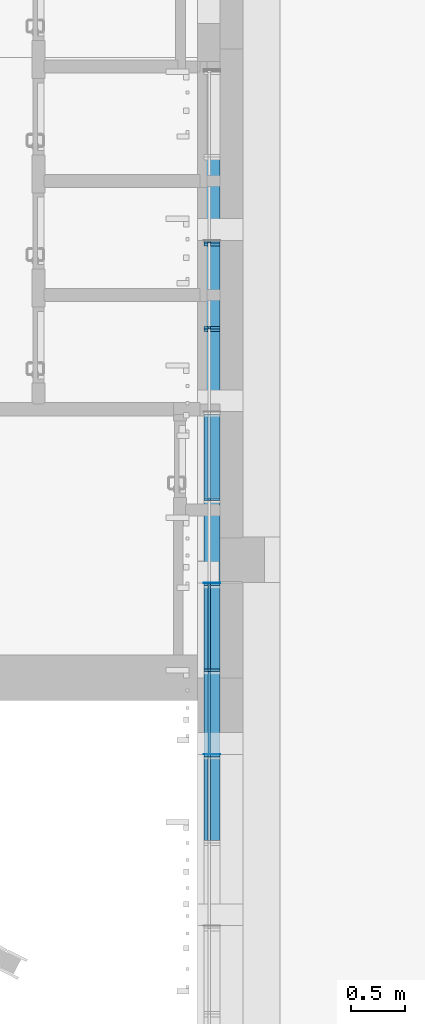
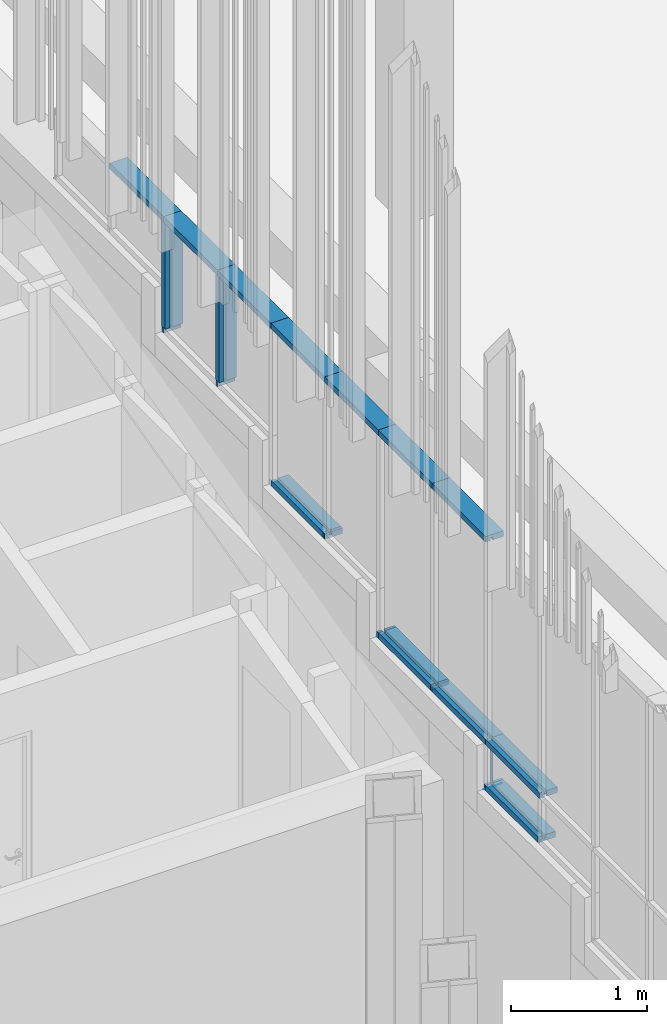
# One storey, part 61 of 390: 26 discrete accessories, 1 element without a shape of its own.
"""IFC2X3 building model written with IfcOpenShell, lengths in millimetres."""

import ifcopenshell
import ifcopenshell.guid

model = None  # the IFC model being written
_history = None  # IfcOwnerHistory: only IFC2X3 demands one
_inside = {}  # id of a spatial element -> (the spatial element, [elements in it])
_under = {}  # id of a project, library or spatial element -> (it, [spatial elements below it])
_declared = {}  # id of a project -> (the project, [libraries it declares])
_typed = {}  # id of a type object -> (the type object, [elements of that type])
_made_of = {}  # id of a material, layer set ... -> (it, [elements and type objects made of it])


def new_model(schema):
    """Start an empty IFC model of exactly this schema.

    Asked for "IFC4X3", IfcOpenShell would pick the latest addendum, in which some entities
    have other attributes; the version numbers below select the first issue.
    IFC2X3 requires an IfcOwnerHistory on every rooted entity: one is made here for all.
    """
    global model, _history
    if schema == "IFC4X3":
        model = ifcopenshell.file(schema_version=(4, 3, 0, 0))
    else:
        model = ifcopenshell.file(schema=schema)
    _inside.clear()
    _under.clear()
    _declared.clear()
    _typed.clear()
    _made_of.clear()
    _history = None
    if model.schema == "IFC2X3":
        org = make("IfcOrganization", Name="unknown")
        user = make(
            "IfcPersonAndOrganization",
            ThePerson=make("IfcPerson", FamilyName="unknown"),
            TheOrganization=org,
        )
        app = make(
            "IfcApplication",
            ApplicationDeveloper=org,
            Version="unknown",
            ApplicationFullName="unknown",
            ApplicationIdentifier="unknown",
        )
        _history = make(
            "IfcOwnerHistory",
            OwningUser=user,
            OwningApplication=app,
            ChangeAction="ADDED",
            CreationDate=0,
        )
    return model


def make(cls, **values):
    """One entity of the class cls with the attributes given. An attribute that is None is left unset."""
    return model.create_entity(
        cls, **{name: value for name, value in values.items() if value is not None}
    )


def entity(cls, *values):
    """Any entity or typed value of the class cls, its attributes in the order of the schema. None: left unset."""
    e = model.create_entity(cls)
    for i, value in enumerate(values):
        if value is not None:
            e[i] = value
    return e


def rooted(cls, **values):
    """An entity with a GlobalId (a new one), such as an element, a storey or a relation."""
    return make(cls, GlobalId=ifcopenshell.guid.new(), OwnerHistory=_history, **values)


def si_unit(unit_type, name, prefix=None):
    """IfcSIUnit, for example si_unit("LENGTHUNIT", "METRE", prefix="MILLI")."""
    return make("IfcSIUnit", UnitType=unit_type, Prefix=prefix, Name=name)


def converted_unit(unit_type, name, factor, base, dimensions=None, offset=None):
    """IfcConversionBasedUnit, such as the inch: factor (a typed value) times the base unit."""
    return make(
        "IfcConversionBasedUnit"
        if offset is None
        else "IfcConversionBasedUnitWithOffset",
        ConversionOffset=offset,
        Dimensions=None
        if dimensions is None
        else entity("IfcDimensionalExponents", *dimensions),
        UnitType=unit_type,
        Name=name,
        ConversionFactor=make(
            "IfcMeasureWithUnit", ValueComponent=factor, UnitComponent=base
        ),
    )


def derived_unit(unit_type, elements):
    """IfcDerivedUnit: a product of units, each with its exponent."""
    return make(
        "IfcDerivedUnit",
        Elements=[
            make("IfcDerivedUnitElement", Unit=unit, Exponent=power)
            for unit, power in elements
        ],
        UnitType=unit_type,
    )


def money_unit(currency):
    """IfcMonetaryUnit."""
    return make("IfcMonetaryUnit", Currency=currency)


def assignment(units):
    """IfcUnitAssignment: the units of a project."""
    return None if units is None else make("IfcUnitAssignment", Units=units)


def point(xyz):
    """IfcCartesianPoint."""
    return None if xyz is None else make("IfcCartesianPoint", Coordinates=xyz)


def direction(xyz):
    """IfcDirection."""
    return None if xyz is None else make("IfcDirection", DirectionRatios=xyz)


def frame(location, z_axis=None, x_axis=None):
    """IfcAxis2Placement3D, a coordinate frame: its origin and axes. An axis left out is left unset."""
    return make(
        "IfcAxis2Placement3D",
        Location=point(location),
        Axis=direction(z_axis),
        RefDirection=direction(x_axis),
    )


def origin_with_axes():
    """The frame at (0, 0, 0) with the z axis (0, 0, 1) and the x axis (1, 0, 0) written out."""
    return frame((0.0, 0.0, 0.0), z_axis=(0.0, 0.0, 1.0), x_axis=(1.0, 0.0, 0.0))


def place(relative_to, where):
    """IfcLocalPlacement: puts the frame where relative to a parent placement (None: the world)."""
    return make(
        "IfcLocalPlacement", PlacementRelTo=relative_to, RelativePlacement=where
    )


def context(
    kind, dimensions, precision=None, world=None, true_north=None, identifier=None
):
    """IfcGeometricRepresentationContext, for example the 3D "Model" context."""
    return make(
        "IfcGeometricRepresentationContext",
        ContextIdentifier=identifier,
        ContextType=kind,
        CoordinateSpaceDimension=dimensions,
        Precision=precision,
        WorldCoordinateSystem=world,
        TrueNorth=true_north,
    )


def subcontext(parent, identifier, kind, view, scale=None):
    """IfcGeometricRepresentationSubContext, for example "Body" below "Model"."""
    return make(
        "IfcGeometricRepresentationSubContext",
        ContextIdentifier=identifier,
        ContextType=kind,
        ParentContext=parent,
        TargetScale=scale,
        TargetView=view,
    )


def project(units=None, contexts=None):
    """IfcProject with its units and contexts."""
    return rooted(
        "IfcProject",
        Name="project",
        RepresentationContexts=contexts,
        UnitsInContext=assignment(units),
    )


def spatial(cls, under=None, at=None, **own):
    """A site, building, storey or space (cls), placed at a placement, below another one or the project."""
    s = rooted(cls, ObjectPlacement=at, **own)
    if under is not None:
        _under.setdefault(under.id(), (under, []))[1].append(s)
    return s


def polyline(points):
    """IfcPolyline through the points."""
    return make("IfcPolyline", Points=[point(p) for p in points])


def outline(outer, holes=None, kind="AREA"):
    """IfcArbitraryClosedProfileDef: a profile drawn as a closed curve; with holes, ...WithVoids."""
    if holes is None:
        return make("IfcArbitraryClosedProfileDef", ProfileType=kind, OuterCurve=outer)
    return make(
        "IfcArbitraryProfileDefWithVoids",
        ProfileType=kind,
        OuterCurve=outer,
        InnerCurves=holes,
    )


def extrude(swept, where, along, depth):
    """IfcExtrudedAreaSolid: the profile swept, set in the frame where, extruded along a direction by depth."""
    return make(
        "IfcExtrudedAreaSolid",
        SweptArea=swept,
        Position=where,
        ExtrudedDirection=direction(along),
        Depth=depth,
    )


def clip(a, b, op="DIFFERENCE"):
    """IfcBooleanClippingResult: the solid a cut by the half space b."""
    return make(
        "IfcBooleanClippingResult", Operator=op, FirstOperand=a, SecondOperand=b
    )


def halfspace(plane, agree):
    """IfcHalfSpaceSolid: all space on one side of the plane z = 0 of the frame plane."""
    return make(
        "IfcHalfSpaceSolid",
        BaseSurface=make("IfcPlane", Position=plane),
        AgreementFlag=agree,
    )


def shape(context_of_items, identifier, shape_type, items):
    """IfcShapeRepresentation: the items that make up one representation, for example the "Body"."""
    return make(
        "IfcShapeRepresentation",
        ContextOfItems=context_of_items,
        RepresentationIdentifier=identifier,
        RepresentationType=shape_type,
        Items=items,
    )


def material(Name=None, Category=None):
    """IfcMaterial."""
    return make("IfcMaterial", Name=Name, Category=Category)


def material_list(materials):
    """IfcMaterialList."""
    return make("IfcMaterialList", Materials=materials)


def made_of(thing, what):
    """Note that an element or type object is made of a material, layer set ...; save() writes the relation."""
    if what is not None:
        _made_of.setdefault(what.id(), (what, []))[1].append(thing)
    return thing


def type_object(cls, material=None, **own):
    """A type object (cls), such as IfcWallType, which elements share."""
    return made_of(rooted(cls, **own), material)


def element(
    cls,
    number,
    at=None,
    inside=None,
    cuts=None,
    type_object=None,
    material=None,
    context=None,
    identifier="Body",
    shape_type=None,
    held_by="IfcProductDefinitionShape",
    body=None,
    shapes=None,
    **own,
):
    """One element of the class cls, such as IfcWall. Its Tag is "e" and its number.

    at: its placement. inside: the storey or other place that contains it. cuts: it is an
    opening in that element (IfcRelVoidsElement). A single representation is given by context,
    identifier, shape_type and body (its items); several are given by shapes. held_by: the class
    of the entity that holds the representations. save() writes the other relations.
    """
    e = rooted(cls, Tag="e%d" % number, ObjectPlacement=at, **own)
    if body is not None:
        shapes = [shape(context, identifier, shape_type, body)]
    if shapes is not None:
        e.Representation = make(held_by, Representations=shapes)
    if inside is not None:
        _inside.setdefault(inside.id(), (inside, []))[1].append(e)
    if cuts is not None:
        rooted(
            "IfcRelVoidsElement", RelatingBuildingElement=cuts, RelatedOpeningElement=e
        )
    if type_object is not None:
        _typed.setdefault(type_object.id(), (type_object, []))[1].append(e)
    return made_of(e, material)


def aggregate(whole, parts):
    """IfcRelAggregates: a whole, such as a stair, and the parts it consists of."""
    return rooted("IfcRelAggregates", RelatingObject=whole, RelatedObjects=parts)


def save(model, path):
    """Write the relations noted so far, then the file.

    IfcRelAggregates (storeys below a building ...), IfcRelContainedInSpatialStructure (elements
    in a storey), IfcRelDefinesByType, IfcRelAssociatesMaterial and IfcRelDeclares: one each for
    every whole, place, type object, material and project.
    """
    for whole, parts in _under.values():
        aggregate(whole, parts)
    for where, things in _inside.values():
        rooted(
            "IfcRelContainedInSpatialStructure",
            RelatedElements=things,
            RelatingStructure=where,
        )
    for kind, things in _typed.values():
        rooted("IfcRelDefinesByType", RelatedObjects=things, RelatingType=kind)
    for what, things in _made_of.values():
        rooted("IfcRelAssociatesMaterial", RelatedObjects=things, RelatingMaterial=what)
    for by, libraries in _declared.values():
        rooted("IfcRelDeclares", RelatingContext=by, RelatedDefinitions=libraries)
    model.write(path)


model = new_model("IFC2X3")

# Units and contexts
model_context = context("Model", 3, precision=1e-05, world=origin_with_axes(), true_north=direction((0.0, 1.0)))
body_context = subcontext(model_context, "Body", "Model", "MODEL_VIEW")
ifc_project = project(units=[si_unit("LENGTHUNIT", "METRE", prefix="MILLI"), si_unit("AREAUNIT", "SQUARE_METRE"), si_unit("VOLUMEUNIT", "CUBIC_METRE"), converted_unit("PLANEANGLEUNIT", "DEGREE", entity("IfcPlaneAngleMeasure", 0.0174532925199), si_unit("PLANEANGLEUNIT", "RADIAN"), dimensions=[0, 0, 0, 0, 0, 0, 0]), si_unit("SOLIDANGLEUNIT", "STERADIAN"), money_unit("EUR"), converted_unit("TIMEUNIT", "Year", entity("IfcTimeMeasure", 31556926.0), si_unit("TIMEUNIT", "SECOND"), dimensions=[0, 0, 1, 0, 0, 0, 0]), si_unit("MASSUNIT", "GRAM", prefix="KILO"), si_unit("THERMODYNAMICTEMPERATUREUNIT", "DEGREE_CELSIUS"), si_unit("LUMINOUSINTENSITYUNIT", "LUMEN"), si_unit("ENERGYUNIT", "JOULE", prefix="MEGA"), derived_unit("THERMALCONDUCTANCEUNIT", [(si_unit("POWERUNIT", "WATT"), 1), (si_unit("LENGTHUNIT", "METRE"), -1), (si_unit("THERMODYNAMICTEMPERATUREUNIT", "KELVIN"), -1)]), derived_unit("SPECIFICHEATCAPACITYUNIT", [(si_unit("ENERGYUNIT", "JOULE"), 1), (si_unit("MASSUNIT", "GRAM", prefix="KILO"), -1), (si_unit("THERMODYNAMICTEMPERATUREUNIT", "KELVIN"), -1)]), derived_unit("MASSDENSITYUNIT", [(si_unit("MASSUNIT", "GRAM", prefix="KILO"), 1), (si_unit("VOLUMEUNIT", "CUBIC_METRE"), -1)])], contexts=[model_context])

# Site, building, storey
site_placement = place(None, origin_with_axes())
site = spatial("IfcSite", under=ifc_project, at=site_placement, Name="Site", CompositionType="ELEMENT")
building_placement = place(site_placement, origin_with_axes())
building = spatial("IfcBuilding", under=site, at=building_placement, Name="Building", CompositionType="ELEMENT")
storey_placement = place(building_placement, origin_with_axes())
storey = spatial("IfcBuildingStorey", under=building, at=storey_placement, Name="1 korrus", CompositionType="ELEMENT", Elevation=0.0)

# Curtain wall, discrete accessories
curtain_wall_type = type_object("IfcCurtainWallType", Name="KLF-14", PredefinedType="NOTDEFINED")
curtain_wall_placement = place(storey_placement, frame((122599.999993, 59672.5295083, -0.000201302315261), z_axis=(0.0, 0.0, 1.0), x_axis=(1.0, 0.0, 0.0)))
curtain_wall = element("IfcCurtainWall", 1, at=curtain_wall_placement, inside=storey, type_object=curtain_wall_type, Name="Klaasfassaad")
ifc_material_1 = material(Name="Klaas")
discrete_accessory_type_1 = type_object("IfcDiscreteAccessoryType", Name="Distinct Panel 790 x 5 x 20")
discrete_accessory_1_placement = place(curtain_wall_placement, frame((1.19811716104e-07, -703.98702057, 2570.00011985), z_axis=(0.0, 0.0, 1.0), x_axis=(1.70188476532e-10, -1.0, 0.0)))
discrete_accessory_1 = element("IfcDiscreteAccessory", 2, at=discrete_accessory_1_placement, type_object=discrete_accessory_type_1, material=ifc_material_1, Name="KLF-14 klaaspakett", context=body_context, shape_type="SweptSolid", body=[
    extrude(outline(polyline([(-469.457510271, -15.0000062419), (320.542488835, -15.0000062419), (320.542488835, -10.0001001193), (-469.457510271, -9.99994611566), (-469.457510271, -15.0000062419)])), frame((0.0, -10.0, 0.0), z_axis=(0.0, 1.0, 0.0), x_axis=(1.0, 0.0, 0.0)), (0.0, 0.0, 1.0), 20.0),
])
discrete_accessory_type_2 = type_object("IfcDiscreteAccessoryType", Name="Distinct Panel 785 x 415 x 20")
discrete_accessory_2_placement = place(curtain_wall_placement, frame((2.68073563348e-07, -1575.00001037, 2391.42867409), z_axis=(0.0, 0.0, 1.0), x_axis=(1.70186299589e-10, -1.0, 0.0)))
discrete_accessory_2 = element("IfcDiscreteAccessory", 3, at=discrete_accessory_2_placement, type_object=discrete_accessory_type_2, material=ifc_material_1, Name="KLF-14 klaaspakett", context=body_context, shape_type="SweptSolid", body=[
    extrude(outline(polyline([(-550.470502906, -193.57145385), (234.529502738, -193.57145385), (234.529502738, 221.4285834), (229.960628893, 221.4285834), (229.960628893, -188.571232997), (-550.470502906, -188.571539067), (-550.470502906, -193.57145385)])), frame((0.0, -10.0, 0.0), z_axis=(0.0, 1.0, 0.0), x_axis=(1.0, 0.0, 0.0)), (0.0, 0.0, 1.0), 20.0),
])
ifc_material_2 = material(Name="Aluminium MUST")
ifc_material_list_1 = material_list([ifc_material_2, ifc_material_2, ifc_material_2])
discrete_accessory_type_3 = type_object("IfcDiscreteAccessoryType", Name="50 x 150")
discrete_accessory_3_placement = place(curtain_wall_placement, frame((1.74367187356e-07, -1024.5295103, 4424.99986231), z_axis=(1.70186299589e-10, -1.0, 0.0), x_axis=(0.0, 0.0, -1.0)))
discrete_accessory_3 = element("IfcDiscreteAccessory", 4, at=discrete_accessory_3_placement, type_object=discrete_accessory_type_3, material=ifc_material_list_1, Name="KLF-14 profiil", context=body_context, shape_type="SweptSolid", body=[
    extrude(outline(polyline([(-9.99999986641, 25.0), (-9.99999986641, 0.0), (10.0000001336, 0.0), (10.0000001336, 25.0), (-9.99999986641, 25.0)])), frame((0.0, 0.0, -1.69109171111e-09), z_axis=(0.0, 0.0, 1.0), x_axis=(0.0, -1.0, 0.0)), (0.0, 0.0, 1.0), 785.000000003),
    extrude(outline(polyline([(-99.9999998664, 50.0), (-99.9999998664, 0.0), (-9.99999986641, 0.0), (-9.99999986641, 50.0), (-99.9999998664, 50.0)])), frame((0.0, 0.0, 1.70530256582e-09), z_axis=(0.0, 0.0, 1.0), x_axis=(0.0, -1.0, 0.0)), (0.0, 0.0, 1.0), 785.000000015),
    extrude(outline(polyline([(50.0000001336, 0.0), (50.0000001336, 50.0), (10.0000001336, 50.0), (10.0000001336, 0.0), (50.0000001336, 0.0)])), frame((0.0, 0.0, -8.49809111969e-09), z_axis=(0.0, 0.0, 1.0), x_axis=(0.0, -1.0, 0.0)), (0.0, 0.0, 1.0), 785.000000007),
])
discrete_accessory_4_placement = place(curtain_wall_placement, frame((3.9918290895e-08, -234.529510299, 4424.99986231), z_axis=(1.70188476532e-10, -1.0, 0.0), x_axis=(0.0, 0.0, -1.0)))
discrete_accessory_4 = element("IfcDiscreteAccessory", 5, at=discrete_accessory_4_placement, type_object=discrete_accessory_type_3, material=ifc_material_list_1, Name="KLF-14 profiil", context=body_context, shape_type="SweptSolid", body=[
    extrude(outline(polyline([(-9.99999986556, 25.0), (-9.99999986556, 0.0), (10.0000001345, 0.0), (10.0000001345, 25.0), (-9.99999986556, 25.0)])), frame((0.0, 0.0, -1.70530256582e-09), z_axis=(0.0, 0.0, 1.0), x_axis=(0.0, -1.0, 0.0)), (0.0, 0.0, 1.0), 790.000000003),
    extrude(outline(polyline([(-99.9999998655, 50.0), (-99.9999998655, 0.0), (-9.99999986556, 0.0), (-9.99999986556, 50.0), (-99.9999998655, 50.0)])), frame((0.0, 0.0, 1.69109171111e-09), z_axis=(0.0, 0.0, 1.0), x_axis=(0.0, -1.0, 0.0)), (0.0, 0.0, 1.0), 790.000000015),
    extrude(outline(polyline([(50.0000001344, 0.0), (50.0000001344, 50.0), (10.0000001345, 50.0), (10.0000001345, 0.0), (50.0000001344, 0.0)])), frame((0.0, 0.0, -8.51230197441e-09), z_axis=(0.0, 0.0, 1.0), x_axis=(0.0, -1.0, 0.0)), (0.0, 0.0, 1.0), 790.000000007),
])
discrete_accessory_5_placement = place(curtain_wall_placement, frame((-9.36637434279e-08, 550.470489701, 4424.99986231), z_axis=(1.7016819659e-10, -1.0, 0.0), x_axis=(0.0, 0.0, -1.0)))
discrete_accessory_5 = element("IfcDiscreteAccessory", 6, at=discrete_accessory_5_placement, type_object=discrete_accessory_type_3, material=ifc_material_list_1, Name="KLF-14 profiil", context=body_context, shape_type="SweptSolid", body=[
    extrude(outline(polyline([(-9.99999986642, 25.0), (-9.99999986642, 0.0), (10.0000001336, 0.0), (10.0000001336, 25.0), (-9.99999986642, 25.0)])), frame((0.0, 0.0, -1.71240799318e-09), z_axis=(0.0, 0.0, 1.0), x_axis=(0.0, -1.0, 0.0)), (0.0, 0.0, 1.0), 785.000000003),
    extrude(outline(polyline([(-99.9999998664, 50.0), (-99.9999998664, 0.0), (-9.99999986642, 0.0), (-9.99999986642, 50.0), (-99.9999998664, 50.0)])), frame((0.0, 0.0, 1.69819713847e-09), z_axis=(0.0, 0.0, 1.0), x_axis=(0.0, -1.0, 0.0)), (0.0, 0.0, 1.0), 785.000000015),
    extrude(outline(polyline([(50.0000001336, 0.0), (50.0000001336, 50.0), (10.0000001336, 50.0), (10.0000001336, 0.0), (50.0000001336, 0.0)])), frame((0.0, 0.0, -8.51940740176e-09), z_axis=(0.0, 0.0, 1.0), x_axis=(0.0, -1.0, 0.0)), (0.0, 0.0, 1.0), 785.000000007),
])
discrete_accessory_6_placement = place(curtain_wall_placement, frame((-2.28112639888e-07, 1340.4704897, 4424.99986231), z_axis=(1.70188476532e-10, -1.0, 0.0), x_axis=(0.0, 0.0, -1.0)))
discrete_accessory_6 = element("IfcDiscreteAccessory", 7, at=discrete_accessory_6_placement, type_object=discrete_accessory_type_3, material=ifc_material_list_1, Name="KLF-14 profiil", context=body_context, shape_type="SweptSolid", body=[
    extrude(outline(polyline([(-9.99999986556, 25.0), (-9.99999986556, 0.0), (10.0000001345, 0.0), (10.0000001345, 25.0), (-9.99999986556, 25.0)])), frame((0.0, 0.0, -1.70530256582e-09), z_axis=(0.0, 0.0, 1.0), x_axis=(0.0, -1.0, 0.0)), (0.0, 0.0, 1.0), 790.000000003),
    extrude(outline(polyline([(-99.9999998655, 50.0), (-99.9999998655, 0.0), (-9.99999986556, 0.0), (-9.99999986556, 50.0), (-99.9999998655, 50.0)])), frame((0.0, 0.0, 1.69109171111e-09), z_axis=(0.0, 0.0, 1.0), x_axis=(0.0, -1.0, 0.0)), (0.0, 0.0, 1.0), 790.000000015),
    extrude(outline(polyline([(50.0000001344, 0.0), (50.0000001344, 50.0), (10.0000001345, 50.0), (10.0000001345, 0.0), (50.0000001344, 0.0)])), frame((0.0, 0.0, -8.51230197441e-09), z_axis=(0.0, 0.0, 1.0), x_axis=(0.0, -1.0, 0.0)), (0.0, 0.0, 1.0), 790.000000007),
])
discrete_accessory_7_placement = place(curtain_wall_placement, frame((-3.61708885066e-07, 2125.4704897, 4424.99986231), z_axis=(1.70186299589e-10, -1.0, 0.0), x_axis=(0.0, 0.0, -1.0)))
discrete_accessory_7 = element("IfcDiscreteAccessory", 8, at=discrete_accessory_7_placement, type_object=discrete_accessory_type_3, material=ifc_material_list_1, Name="KLF-14 profiil", context=body_context, shape_type="SweptSolid", body=[
    extrude(outline(polyline([(-9.99999986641, 25.0), (-9.99999986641, 0.0), (10.0000001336, 0.0), (10.0000001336, 25.0), (-9.99999986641, 25.0)])), frame((0.0, 0.0, -1.69109171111e-09), z_axis=(0.0, 0.0, 1.0), x_axis=(0.0, -1.0, 0.0)), (0.0, 0.0, 1.0), 785.000000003),
    extrude(outline(polyline([(-99.9999998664, 50.0), (-99.9999998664, 0.0), (-9.99999986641, 0.0), (-9.99999986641, 50.0), (-99.9999998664, 50.0)])), frame((0.0, 0.0, 1.70530256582e-09), z_axis=(0.0, 0.0, 1.0), x_axis=(0.0, -1.0, 0.0)), (0.0, 0.0, 1.0), 785.000000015),
    extrude(outline(polyline([(50.0000001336, 0.0), (50.0000001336, 50.0), (10.0000001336, 50.0), (10.0000001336, 0.0), (50.0000001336, 0.0)])), frame((0.0, 0.0, -8.49809111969e-09), z_axis=(0.0, 0.0, 1.0), x_axis=(0.0, -1.0, 0.0)), (0.0, 0.0, 1.0), 785.000000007),
])
discrete_accessory_8_placement = place(curtain_wall_placement, frame((3.9918290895e-08, -234.529510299, 2560.00006239), z_axis=(-1.70011836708e-10, 1.0, 0.0), x_axis=(0.0, 0.0, 1.0)))
discrete_accessory_8 = element("IfcDiscreteAccessory", 9, at=discrete_accessory_8_placement, type_object=discrete_accessory_type_3, material=ifc_material_list_1, Name="KLF-14 profiil", context=body_context, shape_type="SweptSolid", body=[
    extrude(outline(polyline([(10.0000000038, -25.0), (10.0000000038, 0.0), (-9.99999999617, 0.0), (-9.99999999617, -25.0), (10.0000000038, -25.0)])), frame((0.0, 0.0, -1.71240799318e-09), z_axis=(0.0, 0.0, 1.0), x_axis=(0.0, 1.0, 0.0)), (0.0, 0.0, 1.0), 22.5702159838),
    extrude(outline(polyline([(100.000000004, -50.0), (100.000000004, 0.0), (10.0000000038, 0.0), (10.0000000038, -50.0), (100.000000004, -50.0)])), frame((0.0, 0.0, -1.70174985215e-08), z_axis=(0.0, 0.0, 1.0), x_axis=(0.0, 1.0, 0.0)), (0.0, 0.0, 1.0), 22.5702159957),
    extrude(outline(polyline([(-49.9999999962, 0.0), (-49.9999999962, -50.0), (-9.99999999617, -50.0), (-9.99999999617, 0.0), (-49.9999999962, 0.0)])), frame((0.0, 0.0, 1.68398628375e-09), z_axis=(0.0, 0.0, 1.0), x_axis=(0.0, 1.0, 0.0)), (0.0, 0.0, 1.0), 22.5702159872),
])
discrete_accessory_9_placement = place(curtain_wall_placement, frame((1.74367187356e-07, -1024.5295103, 2560.000217), z_axis=(-1.70186515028e-10, 0.999999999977, -6.80691500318e-06), x_axis=(0.0, 6.80691500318e-06, 0.999999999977)))
discrete_accessory_9 = element("IfcDiscreteAccessory", 10, at=discrete_accessory_9_placement, type_object=discrete_accessory_type_3, material=ifc_material_list_1, Name="KLF-14 profiil", context=body_context, shape_type="SweptSolid", body=[
    extrude(outline(polyline([(10.0000000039, -25.0001546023), (10.0000000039, -0.000154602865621), (-9.99999999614, -0.000154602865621), (-9.99999999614, -25.0001546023), (10.0000000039, -25.0001546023)])), frame((0.0, 0.0, -0.000349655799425), z_axis=(0.0, 0.0, 1.0), x_axis=(0.0, 1.0, 0.0)), (0.0, 0.0, 1.0), 22.7129684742),
    extrude(outline(polyline([(100.000000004, -50.0001546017), (100.000000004, -0.000154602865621), (10.0000000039, -0.000154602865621), (10.0000000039, -50.0001546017), (100.000000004, -50.0001546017)])), frame((0.0, 0.0, -0.000519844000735), z_axis=(0.0, 0.0, 1.0), x_axis=(0.0, 1.0, 0.0)), (0.0, 0.0, 1.0), 22.713138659),
    extrude(outline(polyline([(-49.9999999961, -0.000154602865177), (-49.9999999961, -50.0001546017), (-9.99999999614, -50.0001546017), (-9.99999999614, -0.000154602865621), (-49.9999999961, -0.000154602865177)])), frame((0.0, 0.0, -0.000519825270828), z_axis=(0.0, 0.0, 1.0), x_axis=(0.0, 1.0, 0.0)), (0.0, 0.0, 1.0), 22.7131386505),
])
ifc_material_list_2 = material_list([ifc_material_2, ifc_material_2])
discrete_accessory_10_placement = place(curtain_wall_placement, frame((-3.61708885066e-07, 2125.4704897, 3380.00009382), z_axis=(0.0, 0.0, 1.0), x_axis=(1.70178393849e-10, -1.0, 0.0)))
discrete_accessory_10 = element("IfcDiscreteAccessory", 11, at=discrete_accessory_10_placement, type_object=discrete_accessory_type_3, material=ifc_material_list_2, Name="KLF-14 profiil", context=body_context, shape_type="SweptSolid", body=[
    extrude(outline(polyline([(100.000000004, -24.999999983), (99.9999999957, 25.000000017), (9.99999999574, 25.0000000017), (10.0000000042, -24.9999999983), (100.000000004, -24.999999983)])), frame((0.0, 0.0, 50.0000003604), z_axis=(0.0, 0.0, 1.0), x_axis=(1.70178393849e-10, 1.0, 0.0)), (0.0, 0.0, 1.0), 944.999768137),
    extrude(outline(polyline([(-50.0000000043, 24.9999999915), (-49.9999999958, -25.0000000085), (-9.99999999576, -25.0000000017), (-10.0000000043, 24.9999999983), (-50.0000000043, 24.9999999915)])), frame((0.0, 0.0, 49.9999981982), z_axis=(0.0, 0.0, 1.0), x_axis=(1.70178393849e-10, 1.0, 0.0)), (0.0, 0.0, 1.0), 944.999770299),
])
discrete_accessory_11_placement = place(curtain_wall_placement, frame((-4.96143570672e-07, 2915.4704897, 3380.00000683), z_axis=(-1.70012002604e-10, 1.0, 0.0), x_axis=(0.0, 0.0, 1.0)))
discrete_accessory_11 = element("IfcDiscreteAccessory", 12, at=discrete_accessory_11_placement, type_object=discrete_accessory_type_3, material=ifc_material_list_1, Name="KLF-14 profiil", context=body_context, shape_type="SweptSolid", body=[
    extrude(outline(polyline([(10.0000000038, -25.0), (10.0000000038, 0.0), (-9.99999999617, 0.0), (-9.99999999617, -25.0), (10.0000000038, -25.0)])), frame((0.0, 0.0, -1.71240799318e-09), z_axis=(0.0, 0.0, 1.0), x_axis=(0.0, 1.0, 0.0)), (0.0, 0.0, 1.0), 22.5693323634),
    extrude(outline(polyline([(100.000000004, -50.0), (100.000000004, 0.0), (10.0000000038, 0.0), (10.0000000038, -50.0), (100.000000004, -50.0)])), frame((0.0, 0.0, -1.70174985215e-08), z_axis=(0.0, 0.0, 1.0), x_axis=(0.0, 1.0, 0.0)), (0.0, 0.0, 1.0), 22.5693323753),
    extrude(outline(polyline([(-49.9999999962, 0.0), (-49.9999999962, -50.0), (-9.99999999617, -50.0), (-9.99999999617, 0.0), (-49.9999999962, 0.0)])), frame((0.0, 0.0, 1.68398628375e-09), z_axis=(0.0, 0.0, 1.0), x_axis=(0.0, 1.0, 0.0)), (0.0, 0.0, 1.0), 22.5693323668),
])
discrete_accessory_12_placement = place(curtain_wall_placement, frame((-4.96143570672e-07, 2915.4704897, 4424.99986231), z_axis=(1.70170488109e-10, -1.0, 0.0), x_axis=(0.0, 0.0, -1.0)))
discrete_accessory_12 = element("IfcDiscreteAccessory", 13, at=discrete_accessory_12_placement, type_object=discrete_accessory_type_3, material=ifc_material_list_1, Name="KLF-14 profiil", context=body_context, shape_type="SweptSolid", body=[
    extrude(outline(polyline([(-9.99999986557, 25.0), (-9.99999986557, 0.0), (10.0000001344, 0.0), (10.0000001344, 25.0), (-9.99999986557, 25.0)])), frame((0.0, 0.0, -1.69819713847e-09), z_axis=(0.0, 0.0, 1.0), x_axis=(0.0, -1.0, 0.0)), (0.0, 0.0, 1.0), 790.000000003),
    extrude(outline(polyline([(-99.9999998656, 50.0), (-99.9999998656, 0.0), (-9.99999986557, 0.0), (-9.99999986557, 50.0), (-99.9999998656, 50.0)])), frame((0.0, 0.0, 1.71240799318e-09), z_axis=(0.0, 0.0, 1.0), x_axis=(0.0, -1.0, 0.0)), (0.0, 0.0, 1.0), 790.000000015),
    extrude(outline(polyline([(50.0000001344, 0.0), (50.0000001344, 50.0), (10.0000001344, 50.0), (10.0000001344, 0.0), (50.0000001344, 0.0)])), frame((0.0, 0.0, -8.50519654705e-09), z_axis=(0.0, 0.0, 1.0), x_axis=(0.0, -1.0, 0.0)), (0.0, 0.0, 1.0), 790.000000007),
])
discrete_accessory_13_placement = place(curtain_wall_placement, frame((1.70501834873e-07, -1001.81706166, 2560.00006239), z_axis=(-1.70188534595e-10, 1.0, 0.0), x_axis=(0.0, 0.0, 1.0)))
discrete_accessory_13 = element("IfcDiscreteAccessory", 14, at=discrete_accessory_13_placement, type_object=discrete_accessory_type_3, material=ifc_material_list_1, Name="KLF-14 profiil", context=body_context, shape_type="SweptSolid", body=[
    extrude(outline(polyline([(10.0000001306, -25.0), (10.0000001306, 0.0), (-9.99999986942, 0.0), (-9.99999986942, -25.0), (10.0000001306, -25.0)])), frame((0.0, 0.0, -0.000170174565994), z_axis=(0.0, 0.0, 1.0), x_axis=(0.0, 1.0, 0.0)), (0.0, 0.0, 1.0), 767.287721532),
    extrude(outline(polyline([(100.000000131, -50.0), (100.000000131, 0.0), (10.0000001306, 0.0), (10.0000001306, -50.0), (100.000000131, -50.0)])), frame((0.0, 0.0, -0.000170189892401), z_axis=(0.0, 0.0, 1.0), x_axis=(0.0, 1.0, 0.0)), (0.0, 0.0, 1.0), 767.287721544),
    extrude(outline(polyline([(-49.9999998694, 0.0), (-49.9999998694, -50.0), (-9.99999986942, -50.0), (-9.99999986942, 0.0), (-49.9999998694, 0.0)])), frame((0.0, 0.0, -0.0001701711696), z_axis=(0.0, 0.0, 1.0), x_axis=(0.0, 1.0, 0.0)), (0.0, 0.0, 1.0), 767.287721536),
])
discrete_accessory_14_placement = place(curtain_wall_placement, frame((-4.96143570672e-07, 2915.4704897, 3380.00000683), z_axis=(0.0, 0.0, 1.0), x_axis=(1.7017948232e-10, -1.0, 0.0)))
discrete_accessory_14 = element("IfcDiscreteAccessory", 15, at=discrete_accessory_14_placement, type_object=discrete_accessory_type_3, material=ifc_material_list_2, Name="KLF-14 profiil", context=body_context, shape_type="SweptSolid", body=[
    extrude(outline(polyline([(100.000000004, -24.999999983), (99.9999999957, 25.000000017), (9.99999999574, 25.0000000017), (10.0000000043, -24.9999999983), (100.000000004, -24.999999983)])), frame((0.0, 0.0, 50.0), z_axis=(0.0, 0.0, 1.0), x_axis=(1.7017948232e-10, 1.0, 0.0)), (0.0, 0.0, 1.0), 944.999855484),
    extrude(outline(polyline([(-50.0000000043, 24.9999999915), (-49.9999999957, -25.0000000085), (-9.99999999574, -25.0000000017), (-10.0000000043, 24.9999999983), (-50.0000000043, 24.9999999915)])), frame((0.0, 0.0, 50.0), z_axis=(0.0, 0.0, 1.0), x_axis=(1.7017948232e-10, 1.0, 0.0)), (0.0, 0.0, 1.0), 944.999855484),
])
discrete_accessory_15_placement = place(curtain_wall_placement, frame((1.74367187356e-07, -1024.5295103, 2585.00012874), z_axis=(-1.70188476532e-10, 1.0, 0.0), x_axis=(0.0, 0.0, 1.0)))
discrete_accessory_15 = element("IfcDiscreteAccessory", 16, at=discrete_accessory_15_placement, type_object=discrete_accessory_type_3, material=ifc_material_list_2, Name="KLF-14 profiil", context=body_context, shape_type="SweptSolid", body=[
    extrude(outline(polyline([(100.000000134, -25.0), (100.000000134, 25.0), (10.0000001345, 25.0), (10.0000001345, -25.0), (100.000000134, -25.0)])), frame((0.0, 0.0, -1.70174985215e-08), z_axis=(0.0, 0.0, 1.0), x_axis=(0.0, 1.0, 0.0)), (0.0, 0.0, 1.0), 790.000000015),
    extrude(outline(polyline([(-49.9999998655, 25.0), (-49.9999998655, -25.0), (-9.99999986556, -25.0), (-9.99999986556, 25.0), (-49.9999998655, 25.0)])), frame((0.0, 0.0, 1.70530256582e-09), z_axis=(0.0, 0.0, 1.0), x_axis=(0.0, 1.0, 0.0)), (0.0, 0.0, 1.0), 790.000000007),
])
discrete_accessory_16_placement = place(curtain_wall_placement, frame((-6.30592467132e-07, 3705.4704897, 4424.99986231), z_axis=(1.70188476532e-10, -1.0, 0.0), x_axis=(0.0, 0.0, -1.0)))
discrete_accessory_16 = element("IfcDiscreteAccessory", 17, at=discrete_accessory_16_placement, type_object=discrete_accessory_type_3, material=ifc_material_list_1, Name="KLF-14 profiil", context=body_context, shape_type="SweptSolid", body=[
    extrude(outline(polyline([(-9.99999986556, 25.0), (-9.99999986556, 0.0), (10.0000001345, 0.0), (10.0000001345, 25.0), (-9.99999986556, 25.0)])), frame((0.0, 0.0, -1.70530256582e-09), z_axis=(0.0, 0.0, 1.0), x_axis=(0.0, -1.0, 0.0)), (0.0, 0.0, 1.0), 790.000000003),
    extrude(outline(polyline([(-99.9999998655, 50.0), (-99.9999998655, 0.0), (-9.99999986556, 0.0), (-9.99999986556, 50.0), (-99.9999998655, 50.0)])), frame((0.0, 0.0, 1.69109171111e-09), z_axis=(0.0, 0.0, 1.0), x_axis=(0.0, -1.0, 0.0)), (0.0, 0.0, 1.0), 790.000000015),
    extrude(outline(polyline([(50.0000001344, 0.0), (50.0000001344, 50.0), (10.0000001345, 50.0), (10.0000001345, 0.0), (50.0000001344, 0.0)])), frame((0.0, 0.0, -8.51230197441e-09), z_axis=(0.0, 0.0, 1.0), x_axis=(0.0, -1.0, 0.0)), (0.0, 0.0, 1.0), 790.000000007),
])
discrete_accessory_17_placement = place(curtain_wall_placement, frame((3.07963432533e-07, -1809.5295103, 2585.00012874), z_axis=(-1.70186299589e-10, 1.0, 0.0), x_axis=(0.0, 0.0, 1.0)))
discrete_accessory_17 = element("IfcDiscreteAccessory", 18, at=discrete_accessory_17_placement, type_object=discrete_accessory_type_3, material=ifc_material_list_2, Name="KLF-14 profiil", context=body_context, shape_type="SweptSolid", body=[
    extrude(outline(polyline([(100.000000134, -25.0), (100.000000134, 25.0), (10.0000001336, 25.0), (10.0000001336, -25.0), (100.000000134, -25.0)])), frame((0.0, 0.0, -1.70174985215e-08), z_axis=(0.0, 0.0, 1.0), x_axis=(0.0, 1.0, 0.0)), (0.0, 0.0, 1.0), 785.000000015),
    extrude(outline(polyline([(-49.9999998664, 25.0), (-49.9999998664, -25.0), (-9.99999986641, -25.0), (-9.99999986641, 25.0), (-49.9999998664, 25.0)])), frame((0.0, 0.0, 1.69109171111e-09), z_axis=(0.0, 0.0, 1.0), x_axis=(0.0, 1.0, 0.0)), (0.0, 0.0, 1.0), 785.000000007),
])
discrete_accessory_18_placement = place(curtain_wall_placement, frame((3.60813601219e-08, -211.960900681, 2560.00006239), z_axis=(-1.70498575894e-10, 0.999999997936, -6.42544922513e-05), x_axis=(0.0, 6.42544922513e-05, 0.999999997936)))
discrete_accessory_18 = element("IfcDiscreteAccessory", 19, at=discrete_accessory_18_placement, type_object=discrete_accessory_type_3, material=ifc_material_list_1, Name="KLF-14 profiil", context=body_context, shape_type="Clipping", body=[
    clip(extrude(outline(polyline([(-10.0, -2.00184935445), (10.0, -2.00184935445), (10.0000000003, 0.0), (-9.99999999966, 0.0), (-10.0, -2.00184935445)])), frame((0.0, 0.0, -0.00160636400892), z_axis=(0.0, 0.0, 1.0), x_axis=(0.0, 1.0, 0.0)), (0.0, 0.0, 1.0), 2.00197798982), halfspace(frame((1.00018580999, 1.70573192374e-10, 1.00012154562), z_axis=(-0.707129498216, -1.20594928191e-10, -0.707084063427), x_axis=(0.0, 1.0, -1.7055246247e-10)), True)),
    clip(extrude(outline(polyline([(10.0, -2.00184935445), (100.0, -2.00184935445), (100.0, 0.0), (10.0000000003, 0.0), (10.0, -2.00184935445)])), frame((0.0, 0.0, -0.00160637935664), z_axis=(0.0, 0.0, 1.0), x_axis=(0.0, 1.0, 0.0)), (0.0, 0.0, 1.0), 2.00197800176), halfspace(frame((1.00018580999, 1.7056085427e-10, 1.00012154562), z_axis=(-0.707129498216, -1.20586205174e-10, -0.707084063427), x_axis=(0.0, 1.0, -1.70540125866e-10)), True)),
    clip(extrude(outline(polyline([(-10.0, -2.00184935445), (-9.99999999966, 0.0), (-49.9999999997, 0.0), (-50.0, -2.00184935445), (-10.0, -2.00184935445)])), frame((0.0, 0.0, -0.00160636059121), z_axis=(0.0, 0.0, 1.0), x_axis=(0.0, 1.0, 0.0)), (0.0, 0.0, 1.0), 2.00197799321), halfspace(frame((1.00018580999, 1.70384429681e-10, 1.00012154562), z_axis=(-0.707129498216, -1.20461473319e-10, -0.707084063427), x_axis=(0.0, 1.0, -1.70363722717e-10)), True)),
])
discrete_accessory_19_placement = place(curtain_wall_placement, frame((-9.36637434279e-08, 550.470489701, 2970.00002422), z_axis=(-1.70186652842e-10, 1.0, 4.57720600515e-07), x_axis=(0.0, -4.57720600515e-07, 1.0)))
discrete_accessory_19 = element("IfcDiscreteAccessory", 20, at=discrete_accessory_19_placement, type_object=discrete_accessory_type_3, material=ifc_material_list_1, Name="KLF-14 profiil", context=body_context, shape_type="SweptSolid", body=[
    extrude(outline(polyline([(10.0000000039, -24.999989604), (10.0000000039, 1.03959525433e-05), (-9.99999999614, 1.03959525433e-05), (-9.99999999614, -24.999989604), (10.0000000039, -24.999989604)])), frame((0.0, 0.0, -2.02707894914e-06), z_axis=(0.0, 0.0, 1.0), x_axis=(0.0, 1.0, 0.0)), (0.0, 0.0, 1.0), 22.712455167),
    extrude(outline(polyline([(100.000000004, -49.999989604), (100.000000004, 1.03959525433e-05), (10.0000000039, 1.03959525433e-05), (10.0000000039, -49.999989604), (100.000000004, -49.999989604)])), frame((0.0, 0.0, -2.0423911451e-06), z_axis=(0.0, 0.0, 1.0), x_axis=(0.0, 1.0, 0.0)), (0.0, 0.0, 1.0), 22.7124666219),
    extrude(outline(polyline([(-49.9999999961, 1.03959525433e-05), (-49.9999999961, -49.999989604), (-9.99999999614, -49.999989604), (-9.99999999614, 1.03959525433e-05), (-49.9999999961, 1.03959525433e-05)])), frame((0.0, 0.0, -2.02368255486e-06), z_axis=(0.0, 0.0, 1.0), x_axis=(0.0, 1.0, 0.0)), (0.0, 0.0, 1.0), 22.7124666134),
])
discrete_accessory_20_placement = place(curtain_wall_placement, frame((-9.75290959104e-08, 573.182919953, 2970.00003461), z_axis=(-1.70188530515e-10, 1.0, 0.0), x_axis=(0.0, 0.0, 1.0)))
discrete_accessory_20 = element("IfcDiscreteAccessory", 21, at=discrete_accessory_20_placement, type_object=discrete_accessory_type_3, material=ifc_material_list_1, Name="KLF-14 profiil", context=body_context, shape_type="SweptSolid", body=[
    extrude(outline(polyline([(10.0000001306, -25.0), (10.0000001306, 0.0), (-9.99999986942, 0.0), (-9.99999986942, -25.0), (10.0000001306, -25.0)])), frame((0.0, 0.0, -1.14447047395e-05), z_axis=(0.0, 0.0, 1.0), x_axis=(0.0, 1.0, 0.0)), (0.0, 0.0, 1.0), 767.287581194),
    extrude(outline(polyline([(100.000000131, -50.0), (100.000000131, 0.0), (10.0000001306, 0.0), (10.0000001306, -50.0), (100.000000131, -50.0)])), frame((0.0, 0.0, -1.14600311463e-05), z_axis=(0.0, 0.0, 1.0), x_axis=(0.0, 1.0, 0.0)), (0.0, 0.0, 1.0), 767.287581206),
    extrude(outline(polyline([(-49.9999998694, 0.0), (-49.9999998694, -50.0), (-9.99999986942, -50.0), (-9.99999986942, 0.0), (-49.9999998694, 0.0)])), frame((0.0, 0.0, -1.14413083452e-05), z_axis=(0.0, 0.0, 1.0), x_axis=(0.0, 1.0, 0.0)), (0.0, 0.0, 1.0), 767.287581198),
])
discrete_accessory_21_placement = place(curtain_wall_placement, frame((3.07963432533e-07, -1809.5295103, 2150.00009018), z_axis=(-1.70010765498e-10, 1.0, 0.0), x_axis=(0.0, 0.0, 1.0)))
discrete_accessory_21 = element("IfcDiscreteAccessory", 22, at=discrete_accessory_21_placement, type_object=discrete_accessory_type_3, material=ifc_material_list_1, Name="KLF-14 profiil", context=body_context, shape_type="SweptSolid", body=[
    extrude(outline(polyline([(10.0000000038, -25.0), (10.0000000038, 0.0), (-9.99999999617, 0.0), (-9.99999999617, -25.0), (10.0000000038, -25.0)])), frame((0.0, 0.0, -1.7266188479e-09), z_axis=(0.0, 0.0, 1.0), x_axis=(0.0, 1.0, 0.0)), (0.0, 0.0, 1.0), 22.569249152),
    extrude(outline(polyline([(100.000000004, -50.0), (100.000000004, 0.0), (10.0000000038, 0.0), (10.0000000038, -50.0), (100.000000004, -50.0)])), frame((0.0, 0.0, -1.70174985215e-08), z_axis=(0.0, 0.0, 1.0), x_axis=(0.0, 1.0, 0.0)), (0.0, 0.0, 1.0), 22.5692491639),
    extrude(outline(polyline([(-49.9999999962, 0.0), (-49.9999999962, -50.0), (-9.99999999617, -50.0), (-9.99999999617, 0.0), (-49.9999999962, 0.0)])), frame((0.0, 0.0, 1.68398628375e-09), z_axis=(0.0, 0.0, 1.0), x_axis=(0.0, 1.0, 0.0)), (0.0, 0.0, 1.0), 22.5692491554),
])
discrete_accessory_22_placement = place(curtain_wall_placement, frame((-3.61708885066e-07, 2125.4704897, 3380.00009382), z_axis=(-1.70186790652e-10, 0.999999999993, -3.82990113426e-06), x_axis=(0.0, 3.82990113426e-06, 0.999999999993)))
discrete_accessory_22 = element("IfcDiscreteAccessory", 23, at=discrete_accessory_22_placement, type_object=discrete_accessory_type_3, material=ifc_material_list_1, Name="KLF-14 profiil", context=body_context, shape_type="SweptSolid", body=[
    extrude(outline(polyline([(10.0000000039, -25.0000869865), (10.0000000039, -8.69866578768e-05), (-9.99999999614, -8.69866578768e-05), (-9.99999999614, -25.0000869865), (10.0000000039, -25.0000869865)])), frame((0.0, 0.0, -0.000192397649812), z_axis=(0.0, 0.0, 1.0), x_axis=(0.0, 1.0, 0.0)), (0.0, 0.0, 1.0), 22.7127000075),
    extrude(outline(polyline([(100.000000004, -50.0000869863), (100.000000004, -8.69866578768e-05), (10.0000000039, -8.69866578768e-05), (10.0000000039, -50.0000869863), (100.000000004, -50.0000869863)])), frame((0.0, 0.0, -0.000288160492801), z_axis=(0.0, 0.0, 1.0), x_axis=(0.0, 1.0, 0.0)), (0.0, 0.0, 1.0), 22.7127957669),
    extrude(outline(polyline([(-49.9999999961, -8.69866578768e-05), (-49.9999999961, -50.0000869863), (-9.99999999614, -50.0000869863), (-9.99999999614, -8.69866578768e-05), (-49.9999999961, -8.69866578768e-05)])), frame((0.0, 0.0, -0.000288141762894), z_axis=(0.0, 0.0, 1.0), x_axis=(0.0, 1.0, 0.0)), (0.0, 0.0, 1.0), 22.7127957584),
])
discrete_accessory_23_placement = place(curtain_wall_placement, frame((4.42398118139e-07, -2599.5295103, 2585.00012874), z_axis=(-1.70170488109e-10, 1.0, 0.0), x_axis=(0.0, 0.0, 1.0)))
discrete_accessory_23 = element("IfcDiscreteAccessory", 24, at=discrete_accessory_23_placement, type_object=discrete_accessory_type_3, material=ifc_material_list_2, Name="KLF-14 profiil", context=body_context, shape_type="SweptSolid", body=[
    extrude(outline(polyline([(100.000000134, -25.0), (100.000000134, 25.0), (10.0000001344, 25.0), (10.0000001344, -25.0), (100.000000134, -25.0)])), frame((0.0, 0.0, -1.70174985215e-08), z_axis=(0.0, 0.0, 1.0), x_axis=(0.0, 1.0, 0.0)), (0.0, 0.0, 1.0), 790.000000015),
    extrude(outline(polyline([(-49.9999998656, 25.0), (-49.9999998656, -25.0), (-9.99999986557, -25.0), (-9.99999986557, 25.0), (-49.9999998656, 25.0)])), frame((0.0, 0.0, 1.69819713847e-09), z_axis=(0.0, 0.0, 1.0), x_axis=(0.0, 1.0, 0.0)), (0.0, 0.0, 1.0), 790.000000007),
])
discrete_accessory_24_placement = place(curtain_wall_placement, frame((3.0412650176e-07, -1786.96075848, 2150.00009018), z_axis=(-1.70519854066e-10, 0.999999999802, 1.98931772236e-05), x_axis=(0.0, -1.98931772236e-05, 0.999999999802)))
discrete_accessory_24 = element("IfcDiscreteAccessory", 25, at=discrete_accessory_24_placement, type_object=discrete_accessory_type_3, material=ifc_material_list_1, Name="KLF-14 profiil", context=body_context, shape_type="Clipping", body=[
    clip(extrude(outline(polyline([(-10.0, -2.00065913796), (10.0, -2.00065913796), (10.0000000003, 0.0), (-9.99999999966, 0.0), (-10.0, -2.00065913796)])), frame((0.0, 0.0, -0.000497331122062), z_axis=(0.0, 0.0, 1.0), x_axis=(0.0, 1.0, 0.0)), (0.0, 0.0, 1.0), 2.0006193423), halfspace(frame((1.00006100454, 1.70177649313e-10, 1.00008089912), z_axis=(-0.707099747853, -1.20325232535e-10, -0.70711381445), x_axis=(0.0, 1.0, -1.70163883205e-10)), True)),
    clip(extrude(outline(polyline([(10.0, -2.00065913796), (100.0, -2.00065913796), (100.0, 0.0), (10.0000000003, 0.0), (10.0, -2.00065913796)])), frame((0.0, 0.0, -0.000497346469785), z_axis=(0.0, 0.0, 1.0), x_axis=(0.0, 1.0, 0.0)), (0.0, 0.0, 1.0), 2.00061935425), halfspace(frame((1.00006100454, 1.70541585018e-10, 1.00008089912), z_axis=(-0.707099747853, -1.20582555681e-10, -0.70711381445), x_axis=(0.0, 1.0, -1.70527789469e-10)), True)),
    clip(extrude(outline(polyline([(-10.0, -2.00065913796), (-9.99999999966, 0.0), (-49.9999999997, 0.0), (-50.0, -2.00065913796), (-10.0, -2.00065913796)])), frame((0.0, 0.0, -0.000497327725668), z_axis=(0.0, 0.0, 1.0), x_axis=(0.0, 1.0, 0.0)), (0.0, 0.0, 1.0), 2.00061934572), halfspace(frame((1.00006100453, 1.70544050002e-10, 1.00008089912), z_axis=(-0.707099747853, -1.20584298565e-10, -0.70711381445), x_axis=(0.0, 1.0, -1.70530254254e-10)), True)),
])
discrete_accessory_25_placement = place(curtain_wall_placement, frame((4.38532765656e-07, -2576.81734738, 2150.00009018), z_axis=(-1.70169950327e-10, 1.0, 0.0), x_axis=(0.0, 0.0, 1.0)))
discrete_accessory_25 = element("IfcDiscreteAccessory", 26, at=discrete_accessory_25_placement, type_object=discrete_accessory_type_3, material=ifc_material_list_1, Name="KLF-14 profiil", context=body_context, shape_type="SweptSolid", body=[
    extrude(outline(polyline([(10.0000001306, -25.0), (10.0000001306, 0.0), (-9.99999986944, 0.0), (-9.99999986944, -25.0), (10.0000001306, -25.0)])), frame((0.0, 0.0, -6.29850021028e-05), z_axis=(0.0, 0.0, 1.0), x_axis=(0.0, 1.0, 0.0)), (0.0, 0.0, 1.0), 767.287900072),
    extrude(outline(polyline([(100.000000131, -50.0), (100.000000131, 0.0), (10.0000001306, 0.0), (10.0000001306, -50.0), (100.000000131, -50.0)])), frame((0.0, 0.0, -6.30003071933e-05), z_axis=(0.0, 0.0, 1.0), x_axis=(0.0, 1.0, 0.0)), (0.0, 0.0, 1.0), 767.287900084),
    extrude(outline(polyline([(-49.9999998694, 0.0), (-49.9999998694, -50.0), (-9.99999986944, -50.0), (-9.99999986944, 0.0), (-49.9999998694, 0.0)])), frame((0.0, 0.0, -6.29815914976e-05), z_axis=(0.0, 0.0, 1.0), x_axis=(0.0, 1.0, 0.0)), (0.0, 0.0, 1.0), 767.287900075),
])
discrete_accessory_26_placement = place(curtain_wall_placement, frame((3.9918290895e-08, -234.529510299, 2585.00012874), z_axis=(-1.70011836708e-10, 1.0, 0.0), x_axis=(0.0, 0.0, 1.0)))
discrete_accessory_26 = element("IfcDiscreteAccessory", 27, at=discrete_accessory_26_placement, type_object=discrete_accessory_type_3, material=ifc_material_list_2, Name="KLF-14 profiil", context=body_context, shape_type="SweptSolid", body=[
    extrude(outline(polyline([(100.000000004, -25.0), (100.000000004, 25.0), (10.0000000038, 25.0), (10.0000000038, -25.0), (100.000000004, -25.0)])), frame((0.0, 0.0, -1.70174985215e-08), z_axis=(0.0, 0.0, 1.0), x_axis=(0.0, 1.0, 0.0)), (0.0, 0.0, 1.0), 22.5686096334),
    extrude(outline(polyline([(-49.9999999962, 25.0), (-49.9999999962, -25.0), (-9.99999999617, -25.0), (-9.99999999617, 25.0), (-49.9999999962, 25.0)])), frame((0.0, 0.0, 1.68398628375e-09), z_axis=(0.0, 0.0, 1.0), x_axis=(0.0, 1.0, 0.0)), (0.0, 0.0, 1.0), 22.5686096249),
])
aggregate(curtain_wall, [discrete_accessory_1, discrete_accessory_2, discrete_accessory_3, discrete_accessory_4, discrete_accessory_5, discrete_accessory_6, discrete_accessory_7, discrete_accessory_8, discrete_accessory_9, discrete_accessory_10, discrete_accessory_11, discrete_accessory_12, discrete_accessory_13, discrete_accessory_14, discrete_accessory_15, discrete_accessory_16, discrete_accessory_17, discrete_accessory_18, discrete_accessory_19, discrete_accessory_20, discrete_accessory_21, discrete_accessory_22, discrete_accessory_23, discrete_accessory_24, discrete_accessory_25, discrete_accessory_26])

save(model, "model.ifc")
